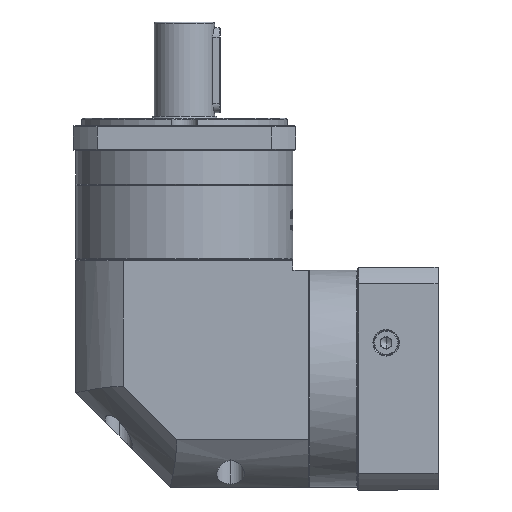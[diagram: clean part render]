
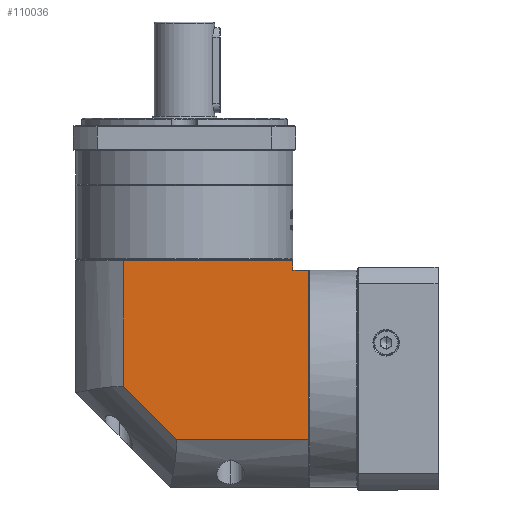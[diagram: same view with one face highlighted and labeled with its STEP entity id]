
A CAD part, left-side view. The second image highlights one B-rep face of the part: STEP entity #110036.
In plain terms, the highlighted planar face has unit normal (-1, 0, 0).
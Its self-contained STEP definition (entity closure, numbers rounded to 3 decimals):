
#416 = VERTEX_POINT ( 'NONE', #20109 ) ;
#1306 = EDGE_CURVE ( 'NONE', #95540, #416, #130780, .T. ) ;
#3393 = FACE_OUTER_BOUND ( 'NONE', #72636, .T. ) ;
#8242 = ORIENTED_EDGE ( 'NONE', *, *, #73722, .F. ) ;
#8267 = CARTESIAN_POINT ( 'NONE',  ( -278.357, -31.227, 58.844 ) ) ;
#9388 = LINE ( 'NONE', #119265, #140784 ) ;
#10628 = VECTOR ( 'NONE', #129584, 1000. ) ;
#15834 = ORIENTED_EDGE ( 'NONE', *, *, #157735, .F. ) ;
#17997 = VERTEX_POINT ( 'NONE', #30585 ) ;
#20109 = CARTESIAN_POINT ( 'NONE',  ( -278.357, -31.227, 52.344 ) ) ;
#21459 = DIRECTION ( 'NONE',  ( 0., 0., 1. ) ) ;
#23397 = VECTOR ( 'NONE', #163432, 1000. ) ;
#25483 = VERTEX_POINT ( 'NONE', #109702 ) ;
#30289 = DIRECTION ( 'NONE',  ( 0., 0., -1. ) ) ;
#30585 = CARTESIAN_POINT ( 'NONE',  ( -278.357, -129.527, 47.344 ) ) ;
#32795 = EDGE_CURVE ( 'NONE', #17997, #135441, #9388, .T. ) ;
#33369 = PLANE ( 'NONE',  #110792 ) ;
#34674 = CARTESIAN_POINT ( 'NONE',  ( -278.357, -31.227, -14.218 ) ) ;
#47103 = DIRECTION ( 'NONE',  ( 1., 0., 0. ) ) ;
#48223 = CARTESIAN_POINT ( 'NONE',  ( -278.357, -6.127, 58.844 ) ) ;
#49285 = CARTESIAN_POINT ( 'NONE',  ( -278.357, -121.127, 47.344 ) ) ;
#60458 = LINE ( 'NONE', #100790, #68741 ) ;
#64685 = EDGE_CURVE ( 'NONE', #135441, #136311, #131978, .T. ) ;
#64700 = CARTESIAN_POINT ( 'NONE',  ( -278.357, -6.127, 52.344 ) ) ;
#68741 = VECTOR ( 'NONE', #128981, 1000. ) ;
#72636 = EDGE_LOOP ( 'NONE', ( #93494, #8242, #147396, #15834, #103179, #111726, #121221 ) ) ;
#73722 = EDGE_CURVE ( 'NONE', #128708, #95540, #142419, .T. ) ;
#81348 = DIRECTION ( 'NONE',  ( 0., 1., 0. ) ) ;
#93494 = ORIENTED_EDGE ( 'NONE', *, *, #1306, .F. ) ;
#95540 = VERTEX_POINT ( 'NONE', #34674 ) ;
#100790 = CARTESIAN_POINT ( 'NONE',  ( -278.357, -6.127, -42.556 ) ) ;
#103179 = ORIENTED_EDGE ( 'NONE', *, *, #32795, .T. ) ;
#109702 = CARTESIAN_POINT ( 'NONE',  ( -278.357, -129.527, -42.556 ) ) ;
#110036 = ADVANCED_FACE ( 'NONE', ( #3393 ), #33369, .F. ) ;
#110792 = AXIS2_PLACEMENT_3D ( 'NONE', #48223, #47103, #140000 ) ;
#110932 = CARTESIAN_POINT ( 'NONE',  ( -278.357, -121.127, 52.344 ) ) ;
#111089 = CARTESIAN_POINT ( 'NONE',  ( -278.357, -129.527, 58.844 ) ) ;
#111726 = ORIENTED_EDGE ( 'NONE', *, *, #64685, .T. ) ;
#119265 = CARTESIAN_POINT ( 'NONE',  ( -278.357, -121.127, 47.344 ) ) ;
#121221 = ORIENTED_EDGE ( 'NONE', *, *, #146940, .F. ) ;
#121935 = VECTOR ( 'NONE', #139940, 1000. ) ;
#126830 = CARTESIAN_POINT ( 'NONE',  ( -278.357, -121.127, -67.656 ) ) ;
#128708 = VERTEX_POINT ( 'NONE', #150332 ) ;
#128981 = DIRECTION ( 'NONE',  ( 0., 1., 0. ) ) ;
#129584 = DIRECTION ( 'NONE',  ( 0., -1., 0. ) ) ;
#130780 = LINE ( 'NONE', #8267, #149186 ) ;
#131978 = LINE ( 'NONE', #126830, #121935 ) ;
#135054 = VECTOR ( 'NONE', #30289, 1000. ) ;
#135441 = VERTEX_POINT ( 'NONE', #49285 ) ;
#136311 = VERTEX_POINT ( 'NONE', #110932 ) ;
#139940 = DIRECTION ( 'NONE',  ( 0., 0., 1. ) ) ;
#140000 = DIRECTION ( 'NONE',  ( 0., 1., 0. ) ) ;
#140784 = VECTOR ( 'NONE', #81348, 1000. ) ;
#142419 = LINE ( 'NONE', #150257, #23397 ) ;
#142595 = EDGE_CURVE ( 'NONE', #25483, #128708, #60458, .T. ) ;
#146940 = EDGE_CURVE ( 'NONE', #416, #136311, #154382, .T. ) ;
#147396 = ORIENTED_EDGE ( 'NONE', *, *, #142595, .F. ) ;
#149186 = VECTOR ( 'NONE', #21459, 1000. ) ;
#150257 = CARTESIAN_POINT ( 'NONE',  ( -278.357, -59.565, -42.556 ) ) ;
#150332 = CARTESIAN_POINT ( 'NONE',  ( -278.357, -59.565, -42.556 ) ) ;
#154382 = LINE ( 'NONE', #64700, #10628 ) ;
#157735 = EDGE_CURVE ( 'NONE', #17997, #25483, #169881, .T. ) ;
#163432 = DIRECTION ( 'NONE',  ( 0., 0.707, 0.707 ) ) ;
#169881 = LINE ( 'NONE', #111089, #135054 ) ;
